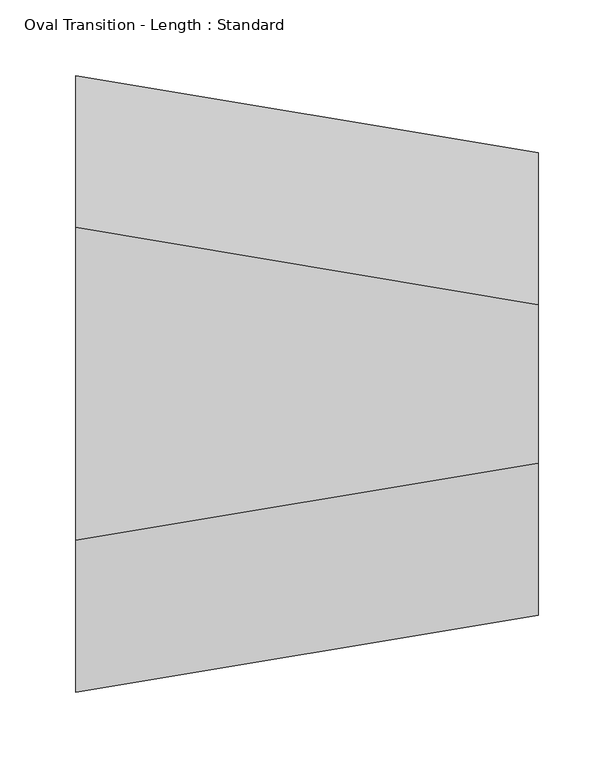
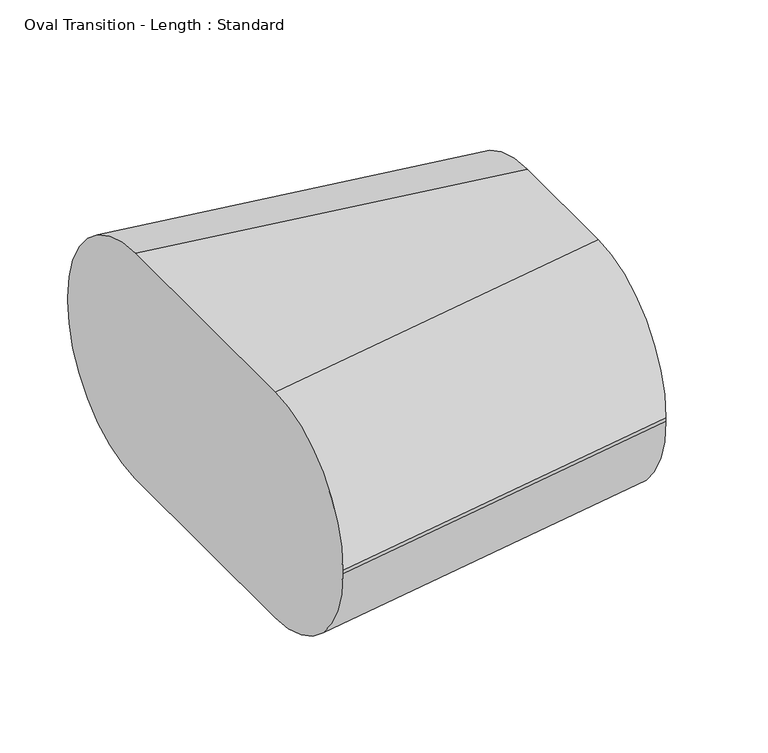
"""IFC4 building model written with IfcOpenShell, lengths in millimetres: duct fitting geometry, Oval Transition - Length : Standard."""

from ifc_helpers import new_model, si_unit, point, frame, origin, place, context, project, spatial, circle_curve, trimmed, source, transform, mapped, element, save
from ifc_brep_helpers import plane_surface, extruded_surface, advanced_brep


def oval_transition_length_standard_f0f2b33e(model_context):
    return source(origin(), model_context, "Body", "AdvancedBrep", [
        advanced_brep(
        [(304.8, -52.3875, 101.6), (304.8, -152.4, 1.5875), (304.8, -152.4, -1.5875), (304.8, -52.3875, -101.6), (304.8, 52.3875, -101.6), (304.8, 152.4, -1.5875), (304.8, 152.4, 1.5875), (304.8, 52.3875, 101.6), (0.0, -103.1875, 101.6), (0.0, 103.1875, 101.6), (0.0, 203.2, 1.5875), (0.0, 203.2, -1.5875), (0.0, 103.1875, -101.6), (0.0, -103.1875, -101.6), (0.0, -203.2, -1.5875), (0.0, -203.2, 1.5875)],
        [
            (0, 1, circle_curve(frame((304.8, -52.3875, 1.5875), z_axis=(1.0, 0.0, 0.0), x_axis=(0.0, 1.0, 0.0)), 100.0125)),
            (1, 2),
            (2, 3, circle_curve(frame((304.8, -52.3875, -1.5875), z_axis=(1.0, 0.0, 0.0), x_axis=(0.0, 1.0, 0.0)), 100.0125)),
            (3, 4),
            (4, 5, circle_curve(frame((304.8, 52.3875, -1.5875), z_axis=(1.0, 0.0, 0.0), x_axis=(0.0, 1.0, 0.0)), 100.0125)),
            (5, 6),
            (6, 7, circle_curve(frame((304.8, 52.3875, 1.5875), z_axis=(1.0, 0.0, 0.0), x_axis=(0.0, 1.0, 0.0)), 100.0125)),
            (7, 0),
            (8, 9),
            (9, 10, circle_curve(frame((0.0, 103.1875, 1.5875), z_axis=(-1.0, 0.0, 0.0), x_axis=(0.0, 1.0, 0.0)), 100.0125)),
            (10, 11),
            (11, 12, circle_curve(frame((0.0, 103.1875, -1.5875), z_axis=(-1.0, 0.0, 0.0), x_axis=(0.0, 1.0, 0.0)), 100.0125)),
            (12, 13),
            (13, 14, circle_curve(frame((0.0, -103.1875, -1.5875), z_axis=(-1.0, 0.0, 0.0), x_axis=(0.0, 1.0, 0.0)), 100.0125)),
            (14, 15),
            (15, 8, circle_curve(frame((0.0, -103.1875, 1.5875), z_axis=(-1.0, 0.0, 0.0), x_axis=(0.0, 1.0, 0.0)), 100.0125)),
            (15, 1),
            (0, 8),
            (14, 2),
            (13, 3),
            (12, 4),
            (11, 5),
            (10, 6),
            (9, 7),
        ],
        [
            plane_surface(frame((304.8, 0.0, 0.0), z_axis=(1.0, 0.0, 0.0), x_axis=(0.0, -1.0, 0.0))),
            plane_surface(frame((0.0, 0.0, 0.0), z_axis=(-1.0, 0.0, 0.0), x_axis=(0.0, -1.0, 0.0))),
            extruded_surface(trimmed(circle_curve(frame((0.0, -103.1875, 1.5875), z_axis=(1.0, 0.0, 0.0), x_axis=(0.0, 1.0, 0.0)), 100.0125), [point((0.0, -103.1875, 101.6))], [point((0.0, -203.2, 1.5875))], True, "CARTESIAN"), (304.8, 50.8, 0.0), 309.00433653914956),
            plane_surface(frame((0.0, -203.2, 0.0), z_axis=(0.16439898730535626, -0.986393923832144, 0.0), x_axis=(0.0, 0.0, -1.0))),
            extruded_surface(trimmed(circle_curve(frame((0.0, -103.1875, -1.5875), z_axis=(1.0, 0.0, 0.0), x_axis=(0.0, 1.0, 0.0)), 100.0125), [point((0.0, -203.2, -1.5875))], [point((0.0, -103.1875, -101.6))], True, "CARTESIAN"), (304.8, 50.8, 0.0), 309.00433653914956),
            plane_surface(frame((0.0, 0.0, -101.6), z_axis=(0.0, 0.0, -1.0), x_axis=(0.0, 1.0, 0.0))),
            extruded_surface(trimmed(circle_curve(frame((0.0, 103.1875, -1.5875), z_axis=(1.0, 0.0, 0.0), x_axis=(0.0, 1.0, 0.0)), 100.0125), [point((0.0, 103.1875, -101.6))], [point((0.0, 203.2, -1.5875))], True, "CARTESIAN"), (304.8, -50.8, 0.0), 309.00433653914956),
            plane_surface(frame((0.0, 203.2, 0.0), z_axis=(0.1643989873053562, 0.986393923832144, 0.0), x_axis=(0.0, 0.0, 1.0))),
            extruded_surface(trimmed(circle_curve(frame((0.0, 103.1875, 1.5875), z_axis=(1.0, 0.0, 0.0), x_axis=(0.0, 1.0, 0.0)), 100.0125), [point((0.0, 203.2, 1.5875))], [point((0.0, 103.1875, 101.6))], True, "CARTESIAN"), (304.8, -50.8, 0.0), 309.00433653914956),
            plane_surface(frame((0.0, 0.0, 101.6), z_axis=(0.0, 0.0, 1.0), x_axis=(0.0, -1.0, 0.0))),
        ],
        [
            (0, [[1, 2, 3, 4, 5, 6, 7, 8]]),
            (1, [[9, 10, 11, 12, 13, 14, 15, 16]]),
            (2, [[-16, 17, -1, 18]]),
            (3, [[-15, 19, -2, -17]]),
            (4, [[-14, 20, -3, -19]]),
            (5, [[-13, 21, -4, -20]]),
            (6, [[-12, 22, -5, -21]]),
            (7, [[-11, 23, -6, -22]]),
            (8, [[-10, 24, -7, -23]]),
            (9, [[-9, -18, -8, -24]]),
        ],
    ),
    ])


if __name__ == "__main__":
    model = new_model("IFC4")
    model_context = context("Model", 3, world=origin())
    ifc_project = project(units=[si_unit("LENGTHUNIT", "METRE", prefix="MILLI")], contexts=[model_context])
    site = spatial("IfcSite", under=ifc_project)
    building = spatial("IfcBuilding", under=site)
    placement = place(None, origin())
    oval_transition_length_standard_shape = oval_transition_length_standard_f0f2b33e(model_context)
    element("IfcDuctFitting", 1, ObjectType="Oval Transition - Length : Standard", at=placement, inside=building, context=model_context, shape_type="MappedRepresentation", body=[
        mapped(oval_transition_length_standard_shape, transform((0.0, 0.0, 0.0), x_axis=(1.0, 0.0, 0.0), y_axis=(0.0, 1.0, 0.0), z_axis=(0.0, 0.0, 1.0))),
    ])
    save(model, "model.ifc")
